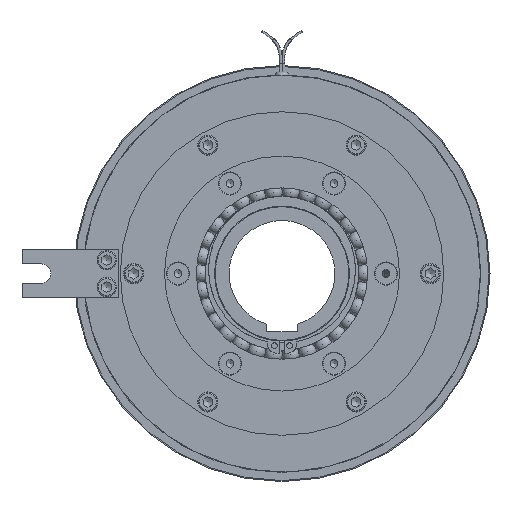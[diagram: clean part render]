
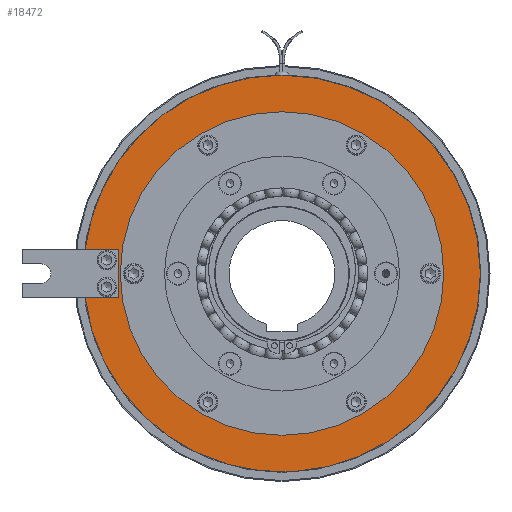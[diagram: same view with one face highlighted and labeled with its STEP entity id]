
A CAD part, left-side view. The second image highlights one B-rep face of the part: STEP entity #18472.
In plain terms, the highlighted planar face has unit normal (-1, 0, 0).
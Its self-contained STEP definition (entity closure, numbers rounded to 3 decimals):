
#724=FACE_BOUND('',#2887,.T.);
#1005=PLANE('',#20308);
#1754=FACE_OUTER_BOUND('',#2886,.T.);
#2886=EDGE_LOOP('',(#15580,#15581,#15582,#15583,#15584,#15585));
#2887=EDGE_LOOP('',(#15586,#15587));
#3804=CIRCLE('',#18785,103.);
#3807=CIRCLE('',#18788,103.);
#4716=CIRCLE('',#20309,103.);
#4717=CIRCLE('',#20310,84.);
#4718=CIRCLE('',#20311,84.);
#5612=LINE('',#37875,#6383);
#5615=LINE('',#37881,#6386);
#5618=LINE('',#37886,#6389);
#6383=VECTOR('',#24544,10.);
#6386=VECTOR('',#24549,10.);
#6389=VECTOR('',#24554,10.);
#6683=VERTEX_POINT('',#26275);
#6684=VERTEX_POINT('',#26277);
#6686=VERTEX_POINT('',#26281);
#6687=VERTEX_POINT('',#26283);
#8183=VERTEX_POINT('',#37874);
#8185=VERTEX_POINT('',#37880);
#8187=VERTEX_POINT('',#37890);
#8188=VERTEX_POINT('',#37891);
#8719=EDGE_CURVE('',#6684,#6683,#3804,.T.);
#8722=EDGE_CURVE('',#6687,#6686,#3807,.T.);
#10768=EDGE_CURVE('',#8183,#6684,#5612,.T.);
#10771=EDGE_CURVE('',#8185,#8183,#5615,.T.);
#10774=EDGE_CURVE('',#6686,#8185,#5618,.T.);
#10776=EDGE_CURVE('',#6683,#6687,#4716,.T.);
#10777=EDGE_CURVE('',#8187,#8188,#4717,.T.);
#10778=EDGE_CURVE('',#8188,#8187,#4718,.T.);
#15580=ORIENTED_EDGE('',*,*,#10774,.T.);
#15581=ORIENTED_EDGE('',*,*,#10771,.T.);
#15582=ORIENTED_EDGE('',*,*,#10768,.T.);
#15583=ORIENTED_EDGE('',*,*,#8719,.T.);
#15584=ORIENTED_EDGE('',*,*,#10776,.T.);
#15585=ORIENTED_EDGE('',*,*,#8722,.T.);
#15586=ORIENTED_EDGE('',*,*,#10777,.T.);
#15587=ORIENTED_EDGE('',*,*,#10778,.T.);
#18472=ADVANCED_FACE('',(#1754,#724),#1005,.T.);
#18785=AXIS2_PLACEMENT_3D('',#26278,#21029,#21030);
#18788=AXIS2_PLACEMENT_3D('',#26284,#21035,#21036);
#20308=AXIS2_PLACEMENT_3D('',#37888,#24556,#24557);
#20309=AXIS2_PLACEMENT_3D('',#37889,#24558,#24559);
#20310=AXIS2_PLACEMENT_3D('',#37892,#24560,#24561);
#20311=AXIS2_PLACEMENT_3D('',#37893,#24562,#24563);
#21029=DIRECTION('center_axis',(-1.,0.,0.));
#21030=DIRECTION('ref_axis',(0.,1.,0.));
#21035=DIRECTION('center_axis',(-1.,0.,0.));
#21036=DIRECTION('ref_axis',(0.,1.,0.));
#24544=DIRECTION('',(0.,1.,0.));
#24549=DIRECTION('',(0.,0.,-1.));
#24554=DIRECTION('',(0.,-1.,0.));
#24556=DIRECTION('center_axis',(-1.,0.,0.));
#24557=DIRECTION('ref_axis',(0.,0.,
1.));
#24558=DIRECTION('center_axis',(-1.,0.,0.));
#24559=DIRECTION('ref_axis',(0.,1.,0.));
#24560=DIRECTION('center_axis',(1.,0.,0.));
#24561=DIRECTION('ref_axis',(0.,1.,0.));
#24562=DIRECTION('center_axis',(1.,0.,0.));
#24563=DIRECTION('ref_axis',(0.,1.,0.));
#26275=CARTESIAN_POINT('',(-15.5,-103.,0.));
#26277=CARTESIAN_POINT('',(-15.5,102.239,-12.5));
#26278=CARTESIAN_POINT('Origin',(-15.5,0.,0.));
#26281=CARTESIAN_POINT('',(-15.5,102.239,12.5));
#26283=CARTESIAN_POINT('',(-15.5,0.,103.));
#26284=CARTESIAN_POINT('Origin',(-15.5,0.,0.));
#37874=CARTESIAN_POINT('',(-15.5,85.,-12.5));
#37875=CARTESIAN_POINT('',(-15.5,111.25,-12.5));
#37880=CARTESIAN_POINT('',(-15.5,85.,12.5));
#37881=CARTESIAN_POINT('',(-15.5,85.,-6.25));
#37886=CARTESIAN_POINT('',(-15.5,86.25,12.5));
#37888=CARTESIAN_POINT('Origin',(-15.5,87.5,0.));
#37889=CARTESIAN_POINT('Origin',(-15.5,0.,0.));
#37890=CARTESIAN_POINT('',(-15.5,84.,0.));
#37891=CARTESIAN_POINT('',(-15.5,-84.,0.));
#37892=CARTESIAN_POINT('Origin',(-15.5,0.,0.));
#37893=CARTESIAN_POINT('Origin',(-15.5,0.,0.));
